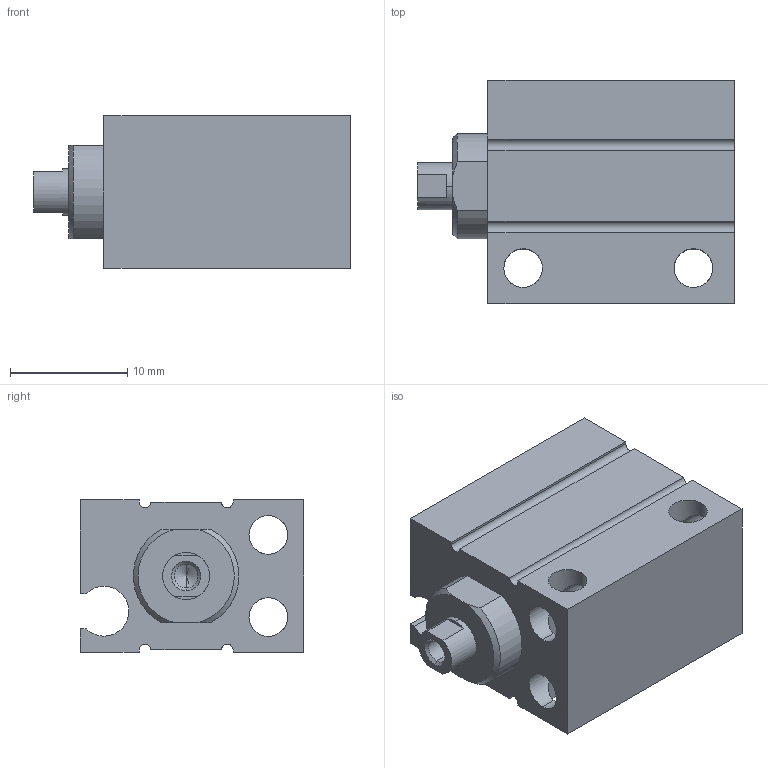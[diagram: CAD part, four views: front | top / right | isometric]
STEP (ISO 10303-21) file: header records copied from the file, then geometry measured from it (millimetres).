
FILE_DESCRIPTION (( 'STEP AP203' ), '1' );
FILE_NAME ('CLJB6-8.STEP', '2020-07-30T18:42:27', ( '' ), ( '' ), 'SwSTEP 2.0', 'SolidWorks 2019', '' );
FILE_SCHEMA (( 'CONFIG_CONTROL_DESIGN' ));
Length unit declared in the file: millimetre
Products named in the file (1): CLJB6-8
Bounding box: 27 x 19 x 13 mm (x, y, z)
Volume: 4337.3 mm3; surface area: 3260.9 mm2
Topology: 2 solids, 2 shells, 92 faces, 240 edges, 145 vertices
Faces by surface type: cylinder 49, plane 29, cone 14
Entity records: 2863 total; most frequent: CARTESIAN_POINT 580, ORIENTED_EDGE 468, DIRECTION 462, EDGE_CURVE 234, AXIS2_PLACEMENT_3D 171, VERTEX_POINT 145, VECTOR 120, LINE 120
